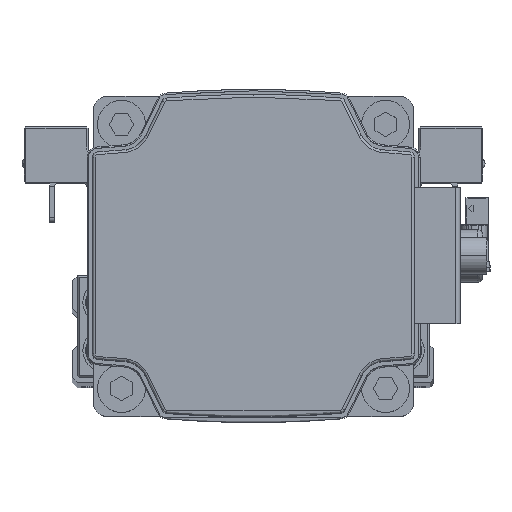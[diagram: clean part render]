
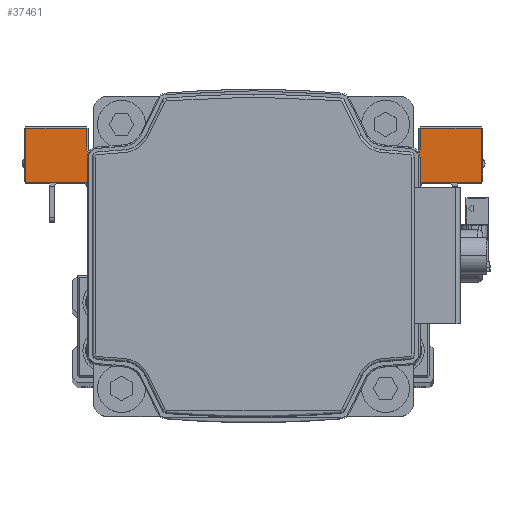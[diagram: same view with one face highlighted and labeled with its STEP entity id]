
A CAD part, top view. The second image highlights one B-rep face of the part: STEP entity #37461.
In plain terms, the highlighted planar face has unit normal (0, 0, 1) as drawn and (1, 0, 0) by its records, which use the part's own axes.
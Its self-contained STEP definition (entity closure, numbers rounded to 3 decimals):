
#526 = LINE ( 'NONE', #12974, #40040 ) ;
#789 = VERTEX_POINT ( 'NONE', #19522 ) ;
#800 = EDGE_CURVE ( 'NONE', #17797, #8974, #25847, .T. ) ;
#943 = DIRECTION ( 'NONE',  ( -1., 0., 0. ) ) ;
#1494 = CARTESIAN_POINT ( 'NONE',  ( 25.5, 17.7, -15. ) ) ;
#1511 = VECTOR ( 'NONE', #10613, 1000. ) ;
#2119 = DIRECTION ( 'NONE',  ( 0., 0., 1. ) ) ;
#2427 = EDGE_CURVE ( 'NONE', #23198, #33048, #29465, .T. ) ;
#2627 = EDGE_CURVE ( 'NONE', #7717, #23198, #15151, .T. ) ;
#2631 = DIRECTION ( 'NONE',  ( 0., 0., 1. ) ) ;
#2836 = CARTESIAN_POINT ( 'NONE',  ( 25.5, 14., -31.3 ) ) ;
#3543 = LINE ( 'NONE', #16017, #19218 ) ;
#3912 = CARTESIAN_POINT ( 'NONE',  ( 25.5, 7.5, -31.3 ) ) ;
#4113 = VERTEX_POINT ( 'NONE', #19835 ) ;
#4313 = DIRECTION ( 'NONE',  ( 0., -1., 0. ) ) ;
#5399 = ORIENTED_EDGE ( 'NONE', *, *, #2427, .T. ) ;
#5702 = PLANE ( 'NONE',  #23570 ) ;
#6286 = EDGE_CURVE ( 'NONE', #12323, #29155, #17667, .T. ) ;
#6293 = DIRECTION ( 'NONE',  ( 0., 0., 1. ) ) ;
#6407 = DIRECTION ( 'NONE',  ( 0., 0., 1. ) ) ;
#6717 = ORIENTED_EDGE ( 'NONE', *, *, #32664, .T. ) ;
#7008 = ORIENTED_EDGE ( 'NONE', *, *, #2627, .T. ) ;
#7066 = ORIENTED_EDGE ( 'NONE', *, *, #33989, .T. ) ;
#7717 = VERTEX_POINT ( 'NONE', #26692 ) ;
#7809 = DIRECTION ( 'NONE',  ( 0., 0., -1. ) ) ;
#8555 = CIRCLE ( 'NONE', #31400, 2. ) ;
#8974 = VERTEX_POINT ( 'NONE', #29616 ) ;
#9006 = DIRECTION ( 'NONE',  ( 0., 1., 0. ) ) ;
#9270 = ORIENTED_EDGE ( 'NONE', *, *, #30323, .T. ) ;
#9307 = VERTEX_POINT ( 'NONE', #34908 ) ;
#9572 = DIRECTION ( 'NONE',  ( -1., 0., 0. ) ) ;
#10308 = DIRECTION ( 'NONE',  ( 0., -1., 0. ) ) ;
#10422 = LINE ( 'NONE', #32294, #39411 ) ;
#10564 = AXIS2_PLACEMENT_3D ( 'NONE', #28910, #943, #13406 ) ;
#10588 = ORIENTED_EDGE ( 'NONE', *, *, #10681, .T. ) ;
#10613 = DIRECTION ( 'NONE',  ( 0., 1., 0. ) ) ;
#10681 = EDGE_CURVE ( 'NONE', #8974, #24939, #39169, .T. ) ;
#10712 = AXIS2_PLACEMENT_3D ( 'NONE', #37565, #9572, #22056 ) ;
#11170 = CARTESIAN_POINT ( 'NONE',  ( 25.5, -7.5, -15. ) ) ;
#11445 = VERTEX_POINT ( 'NONE', #17260 ) ;
#12323 = VERTEX_POINT ( 'NONE', #32661 ) ;
#12430 = ORIENTED_EDGE ( 'NONE', *, *, #6286, .T. ) ;
#12443 = VECTOR ( 'NONE', #7809, 1000. ) ;
#12974 = CARTESIAN_POINT ( 'NONE',  ( 25.5, 12.7, 30. ) ) ;
#13395 = LINE ( 'NONE', #25850, #33464 ) ;
#13406 = DIRECTION ( 'NONE',  ( 0., 0., 1. ) ) ;
#13595 = VECTOR ( 'NONE', #10308, 1000. ) ;
#13784 = CARTESIAN_POINT ( 'NONE',  ( 25.5, 5.5, 15. ) ) ;
#13958 = DIRECTION ( 'NONE',  ( 0., 0., 1. ) ) ;
#14080 = CARTESIAN_POINT ( 'NONE',  ( 25.5, 17.7, 42.7 ) ) ;
#15151 = LINE ( 'NONE', #37007, #27049 ) ;
#15293 = AXIS2_PLACEMENT_3D ( 'NONE', #21854, #34305, #6293 ) ;
#16017 = CARTESIAN_POINT ( 'NONE',  ( 25.5, 7.5, 42.7 ) ) ;
#16349 = EDGE_CURVE ( 'NONE', #9307, #21528, #526, .T. ) ;
#16382 = DIRECTION ( 'NONE',  ( 0., -1., 0. ) ) ;
#16773 = EDGE_CURVE ( 'NONE', #29155, #40064, #3543, .T. ) ;
#17260 = CARTESIAN_POINT ( 'NONE',  ( 25.5, 14., 31.3 ) ) ;
#17667 = LINE ( 'NONE', #30101, #21754 ) ;
#17797 = VERTEX_POINT ( 'NONE', #13784 ) ;
#17851 = ORIENTED_EDGE ( 'NONE', *, *, #800, .T. ) ;
#18183 = CARTESIAN_POINT ( 'NONE',  ( 25.5, 7.5, -15. ) ) ;
#18720 = EDGE_CURVE ( 'NONE', #4113, #24939, #10422, .T. ) ;
#19030 = EDGE_CURVE ( 'NONE', #36281, #9307, #32911, .T. ) ;
#19070 = CARTESIAN_POINT ( 'NONE',  ( 25.5, 17.7, -31.3 ) ) ;
#19218 = VECTOR ( 'NONE', #28445, 1000. ) ;
#19522 = CARTESIAN_POINT ( 'NONE',  ( 25.5, 7.5, -17. ) ) ;
#19835 = CARTESIAN_POINT ( 'NONE',  ( 25.5, 5.5, -15. ) ) ;
#21007 = VECTOR ( 'NONE', #16382, 1000. ) ;
#21456 = EDGE_CURVE ( 'NONE', #11445, #12323, #26144, .T. ) ;
#21528 = VERTEX_POINT ( 'NONE', #29812 ) ;
#21754 = VECTOR ( 'NONE', #2119, 1000. ) ;
#21854 = CARTESIAN_POINT ( 'NONE',  ( 25.5, 14., -30. ) ) ;
#21972 = CARTESIAN_POINT ( 'NONE',  ( 25.5, 5.5, -17. ) ) ;
#22056 = DIRECTION ( 'NONE',  ( 0., 0., 1. ) ) ;
#22224 = ORIENTED_EDGE ( 'NONE', *, *, #38628, .T. ) ;
#23198 = VERTEX_POINT ( 'NONE', #29181 ) ;
#23355 = LINE ( 'NONE', #35817, #12443 ) ;
#23570 = AXIS2_PLACEMENT_3D ( 'NONE', #18183, #30612, #2631 ) ;
#23648 = DIRECTION ( 'NONE',  ( 0., 0., -1. ) ) ;
#23935 = CARTESIAN_POINT ( 'NONE',  ( 25.5, -7.5, -15. ) ) ;
#24939 = VERTEX_POINT ( 'NONE', #23935 ) ;
#25427 = DIRECTION ( 'NONE',  ( 0., 0., 1. ) ) ;
#25847 = LINE ( 'NONE', #38309, #13595 ) ;
#25850 = CARTESIAN_POINT ( 'NONE',  ( 25.5, 7.5, 43. ) ) ;
#26144 = LINE ( 'NONE', #38598, #1511 ) ;
#26432 = ORIENTED_EDGE ( 'NONE', *, *, #18720, .F. ) ;
#26470 = VECTOR ( 'NONE', #23648, 1000. ) ;
#26692 = CARTESIAN_POINT ( 'NONE',  ( 25.5, 7.5, -42.7 ) ) ;
#26840 = ORIENTED_EDGE ( 'NONE', *, *, #19030, .T. ) ;
#27049 = VECTOR ( 'NONE', #9006, 1000. ) ;
#28103 = CARTESIAN_POINT ( 'NONE',  ( 25.5, 7.5, 42.7 ) ) ;
#28168 = CIRCLE ( 'NONE', #10564, 2. ) ;
#28256 = CARTESIAN_POINT ( 'NONE',  ( 25.5, 7.5, 17. ) ) ;
#28260 = EDGE_LOOP ( 'NONE', ( #6717, #7008, #5399, #9270, #26840, #33069, #7066, #30748, #12430, #29782, #22224, #35722, #17851, #10588, #26432, #40329 ) ) ;
#28314 = CIRCLE ( 'NONE', #10712, 1.3 ) ;
#28445 = DIRECTION ( 'NONE',  ( 0., -1., 0. ) ) ;
#28910 = CARTESIAN_POINT ( 'NONE',  ( 25.5, 5.5, 17. ) ) ;
#29155 = VERTEX_POINT ( 'NONE', #14080 ) ;
#29181 = CARTESIAN_POINT ( 'NONE',  ( 25.5, 17.7, -42.7 ) ) ;
#29465 = LINE ( 'NONE', #1494, #29652 ) ;
#29616 = CARTESIAN_POINT ( 'NONE',  ( 25.5, -7.5, 15. ) ) ;
#29652 = VECTOR ( 'NONE', #13958, 1000. ) ;
#29782 = ORIENTED_EDGE ( 'NONE', *, *, #16773, .T. ) ;
#29812 = CARTESIAN_POINT ( 'NONE',  ( 25.5, 12.7, 30. ) ) ;
#29842 = EDGE_CURVE ( 'NONE', #4113, #789, #8555, .T. ) ;
#30101 = CARTESIAN_POINT ( 'NONE',  ( 25.5, 17.7, -15. ) ) ;
#30323 = EDGE_CURVE ( 'NONE', #33048, #36281, #31894, .T. ) ;
#30612 = DIRECTION ( 'NONE',  ( -1., 0., 0. ) ) ;
#30748 = ORIENTED_EDGE ( 'NONE', *, *, #21456, .T. ) ;
#31400 = AXIS2_PLACEMENT_3D ( 'NONE', #21972, #34418, #6407 ) ;
#31894 = LINE ( 'NONE', #3912, #21007 ) ;
#32294 = CARTESIAN_POINT ( 'NONE',  ( 25.5, 7.5, -15. ) ) ;
#32661 = CARTESIAN_POINT ( 'NONE',  ( 25.5, 17.7, 31.3 ) ) ;
#32664 = EDGE_CURVE ( 'NONE', #789, #7717, #13395, .T. ) ;
#32911 = CIRCLE ( 'NONE', #15293, 1.3 ) ;
#33048 = VERTEX_POINT ( 'NONE', #19070 ) ;
#33069 = ORIENTED_EDGE ( 'NONE', *, *, #16349, .T. ) ;
#33464 = VECTOR ( 'NONE', #38312, 1000. ) ;
#33699 = FACE_OUTER_BOUND ( 'NONE', #28260, .T. ) ;
#33989 = EDGE_CURVE ( 'NONE', #21528, #11445, #28314, .T. ) ;
#34305 = DIRECTION ( 'NONE',  ( -1., 0., 0. ) ) ;
#34418 = DIRECTION ( 'NONE',  ( -1., 0., 0. ) ) ;
#34908 = CARTESIAN_POINT ( 'NONE',  ( 25.5, 12.7, -30. ) ) ;
#35722 = ORIENTED_EDGE ( 'NONE', *, *, #38132, .T. ) ;
#35817 = CARTESIAN_POINT ( 'NONE',  ( 25.5, 7.5, 43. ) ) ;
#36281 = VERTEX_POINT ( 'NONE', #2836 ) ;
#37007 = CARTESIAN_POINT ( 'NONE',  ( 25.5, 7.5, -42.7 ) ) ;
#37461 = ADVANCED_FACE ( 'NONE', ( #33699 ), #5702, .F. ) ;
#37565 = CARTESIAN_POINT ( 'NONE',  ( 25.5, 14., 30. ) ) ;
#38132 = EDGE_CURVE ( 'NONE', #38465, #17797, #28168, .T. ) ;
#38309 = CARTESIAN_POINT ( 'NONE',  ( 25.5, 7.5, 15. ) ) ;
#38312 = DIRECTION ( 'NONE',  ( 0., 0., -1. ) ) ;
#38465 = VERTEX_POINT ( 'NONE', #28256 ) ;
#38598 = CARTESIAN_POINT ( 'NONE',  ( 25.5, 7.5, 31.3 ) ) ;
#38628 = EDGE_CURVE ( 'NONE', #40064, #38465, #23355, .T. ) ;
#39169 = LINE ( 'NONE', #11170, #26470 ) ;
#39411 = VECTOR ( 'NONE', #4313, 1000. ) ;
#40040 = VECTOR ( 'NONE', #25427, 1000. ) ;
#40064 = VERTEX_POINT ( 'NONE', #28103 ) ;
#40329 = ORIENTED_EDGE ( 'NONE', *, *, #29842, .T. ) ;
